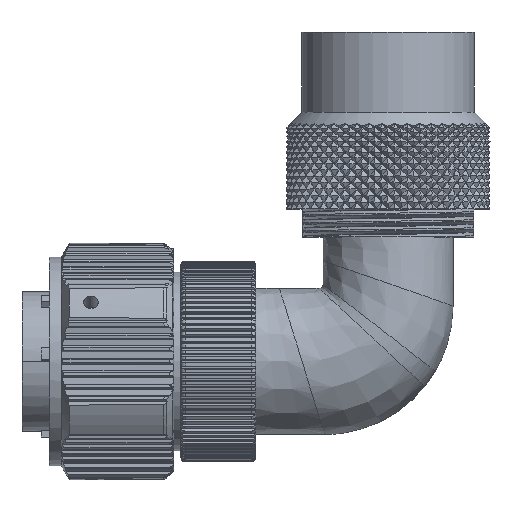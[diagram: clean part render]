
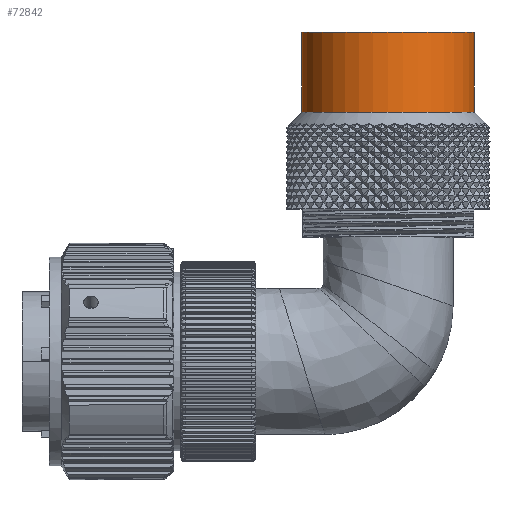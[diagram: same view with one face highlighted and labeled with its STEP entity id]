
A CAD part, top view. The second image highlights one B-rep face of the part: STEP entity #72842.
In plain terms, the highlighted cylindrical face has radius 10.75 mm (diameter 21.5 mm), a partial arc.
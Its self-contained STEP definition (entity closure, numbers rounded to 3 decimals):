
#120=CARTESIAN_POINT('',(0.,12.05,0.));
#121=DIRECTION('',(0.,1.,0.));
#122=DIRECTION('',(-1.,0.,0.));
#123=AXIS2_PLACEMENT_3D('',#120,#121,#122);
#153=DIRECTION('',(0.,1.,0.));
#154=VECTOR('',#153,9.95);
#155=CARTESIAN_POINT('',(10.75,12.05,0.));
#156=LINE('',#155,#154);
#157=DIRECTION('',(0.,-1.,0.));
#158=VECTOR('',#157,9.95);
#159=CARTESIAN_POINT('',(-10.75,22.,0.));
#160=LINE('',#159,#158);
#65894=CARTESIAN_POINT('',(0.,22.,0.));
#65895=DIRECTION('',(0.,-1.,0.));
#65896=DIRECTION('',(1.,0.,0.));
#65897=AXIS2_PLACEMENT_3D('',#65894,#65895,#65896);
#66518=CARTESIAN_POINT('',(10.75,12.05,0.));
#66519=CARTESIAN_POINT('',(-10.75,12.05,0.));
#66520=VERTEX_POINT('',#66518);
#66521=VERTEX_POINT('',#66519);
#66666=CARTESIAN_POINT('',(10.75,22.,0.));
#66667=VERTEX_POINT('',#66666);
#66668=CARTESIAN_POINT('',(-10.75,22.,0.));
#66669=VERTEX_POINT('',#66668);
#72828=CARTESIAN_POINT('',(0.,22.199,0.));
#72829=DIRECTION('',(0.,-1.,0.));
#72830=DIRECTION('',(-1.,0.,0.));
#72831=AXIS2_PLACEMENT_3D('',#72828,#72829,#72830);
#72832=CYLINDRICAL_SURFACE('',#72831,10.75);
#72833=ORIENTED_EDGE('',*,*,#72532,.F.);
#72835=ORIENTED_EDGE('',*,*,#72834,.F.);
#72837=ORIENTED_EDGE('',*,*,#72836,.F.);
#72839=ORIENTED_EDGE('',*,*,#72838,.F.);
#72840=EDGE_LOOP('',(#72833,#72835,#72837,#72839));
#72841=FACE_OUTER_BOUND('',#72840,.F.);
#72842=ADVANCED_FACE('',(#72841),#72832,.T.);
#124=CIRCLE('',#123,10.75);
#65898=CIRCLE('',#65897,10.75);
#72532=EDGE_CURVE('',#66521,#66520,#124,.T.);
#72834=EDGE_CURVE('',#66669,#66521,#160,.T.);
#72836=EDGE_CURVE('',#66667,#66669,#65898,.T.);
#72838=EDGE_CURVE('',#66520,#66667,#156,.T.);
